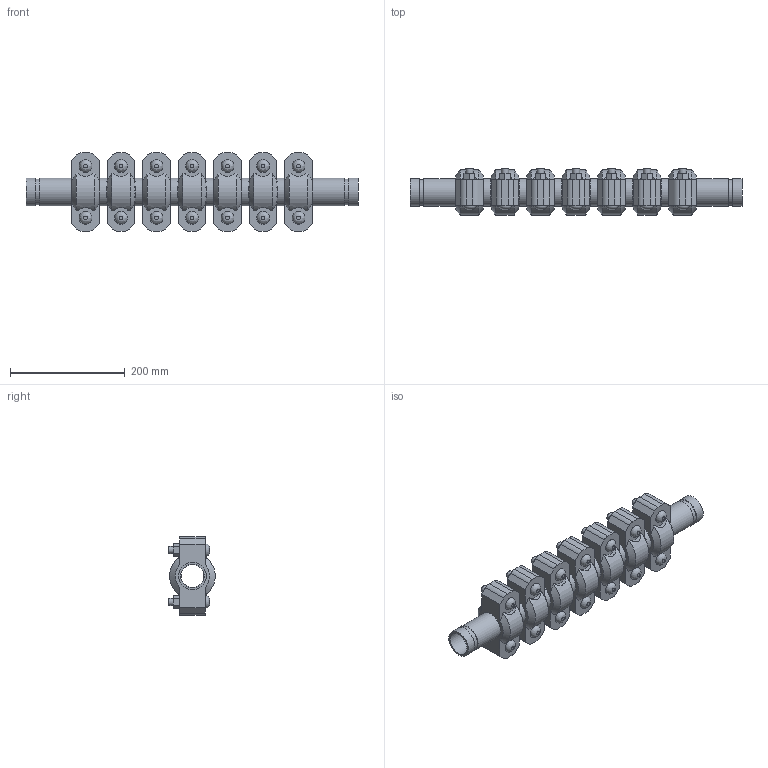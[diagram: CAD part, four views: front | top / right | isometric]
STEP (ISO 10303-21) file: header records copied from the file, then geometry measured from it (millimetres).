
FILE_DESCRIPTION(/* description */ ('VIC EXPANSION JOINT 7 COUPLINGS EXPANDED STYLE 155 (OGS)','CAx-IF Rec.Pracs.---Representation and Presentation of Product Manufacturing Information (PMI)---4.0---2014-10-13'),/* implementation_level */ '2;1');
FILE_NAME(/* name */ 'C:\Users\kkamble\AppData\Roaming\Autodesk\ApplicationPlugins\Victaulic.Temp\A179\Victaulic_IPS_Expansion Joint_Expanded_7 Couplings_Style 155 (OGS)_1.5 (40).stp',/* time_stamp */ '2021-06-27T00:06:30+02:00',/* author */ ('kkamble'),/* organization */ ('Victaulic'),/* preprocessor_version */ 'ST-DEVELOPER v17.2',/* originating_system */ 'Autodesk Inventor 2019',/* authorisation */ '');
FILE_SCHEMA (('AP242_MANAGED_MODEL_BASED_3D_ENGINEERING_MIM_LF { 1 0 10303 442 1 1 4 }'));
Length unit declared in the file: inch
Products named in the file (4): 155-01.5; Nipple-01.5; Nipple-01.5_1; 077-01.5
Assembly tree (15 placements, depth 2):
  155-01.5
    Nipple-01.5  x2
    Nipple-01.5_1  x6
    077-01.5  x7
Bounding box: 579.37 x 81.03 x 136.65 mm (x, y, z)
Volume: 2112687.1 mm3; surface area: 494929.2 mm2
Topology: 15 solids, 29 shells, 523 faces, 1255 edges, 878 vertices
Faces by surface type: plane 300, cylinder 181, cone 28, bspline 14
Full cylindrical faces by diameter (mm): 12.7 x28, 14.605 x14, 39.37 x7, 40.894 x8, 45.085 x16, 48.26 x38
Entity records: 3049 total; most frequent: CARTESIAN_POINT 607, DIRECTION 493, ORIENTED_EDGE 410, EDGE_CURVE 205, AXIS2_PLACEMENT_3D 198, VERTEX_POINT 146, EDGE_LOOP 111, LINE 97
